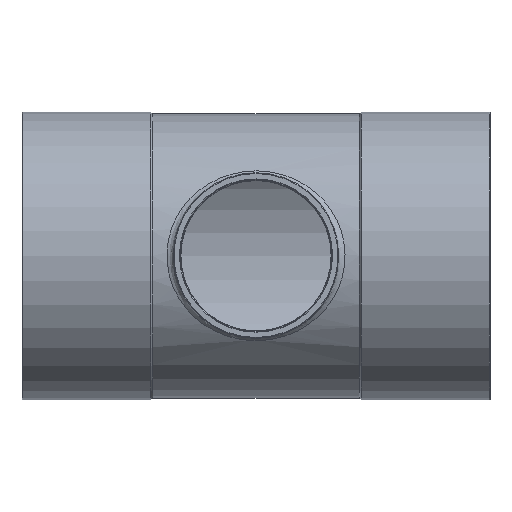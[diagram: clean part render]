
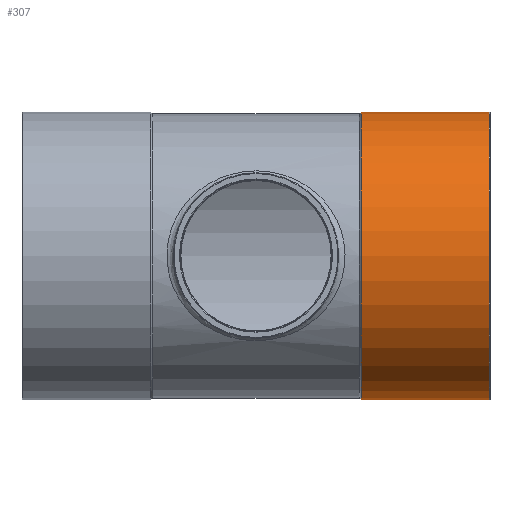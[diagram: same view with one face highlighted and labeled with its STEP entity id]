
A CAD part, top view. The second image highlights one B-rep face of the part: STEP entity #307.
In plain terms, the highlighted cylindrical face has radius 40 mm (diameter 80 mm), a partial arc.
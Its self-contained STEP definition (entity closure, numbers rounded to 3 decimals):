
#135=CARTESIAN_POINT('',(29.213,40.0,0.0));
#136=VERTEX_POINT('',#135);
#152=CARTESIAN_POINT('',(29.213,-40.0,0.));
#153=VERTEX_POINT('',#152);
#160=CARTESIAN_POINT('',(29.213,0.0,0.0));
#161=DIRECTION('',(1.0,0.0,0.0));
#162=DIRECTION('',(0.0,1.0,0.0));
#163=AXIS2_PLACEMENT_3D('',#160,#161,#162);
#164=CIRCLE('',#163,40.0);
#165=EDGE_CURVE('',#136,#153,#164,.T.);
#276=CARTESIAN_POINT('',(47.106,0.0,0.0));
#277=DIRECTION('',(1.0,0.0,0.0));
#278=DIRECTION('',(0.0,1.0,0.0));
#279=AXIS2_PLACEMENT_3D('',#276,#277,#278);
#280=CYLINDRICAL_SURFACE('',#279,40.0);
#281=CARTESIAN_POINT('',(64.8,40.0,0.));
#282=VERTEX_POINT('',#281);
#283=CARTESIAN_POINT('',(29.213,40.0,0.0));
#284=DIRECTION('',(1.0,0.0,0.0));
#285=VECTOR('',#284,35.587);
#286=LINE('',#283,#285);
#287=EDGE_CURVE('',#136,#282,#286,.T.);
#288=ORIENTED_EDGE('',*,*,#287,.F.);
#289=ORIENTED_EDGE('',*,*,#165,.T.);
#290=CARTESIAN_POINT('',(64.8,-40.0,0.));
#291=VERTEX_POINT('',#290);
#292=CARTESIAN_POINT('',(64.8,-40.0,0.));
#293=DIRECTION('',(-1.0,0.0,0.0));
#294=VECTOR('',#293,35.587);
#295=LINE('',#292,#294);
#296=EDGE_CURVE('',#291,#153,#295,.T.);
#297=ORIENTED_EDGE('',*,*,#296,.F.);
#298=CARTESIAN_POINT('',(64.8,0.0,0.0));
#299=DIRECTION('',(1.0,0.0,0.0));
#300=DIRECTION('',(0.0,-1.0,0.0));
#301=AXIS2_PLACEMENT_3D('',#298,#299,#300);
#302=CIRCLE('',#301,40.0);
#303=EDGE_CURVE('',#282,#291,#302,.T.);
#304=ORIENTED_EDGE('',*,*,#303,.F.);
#305=EDGE_LOOP('',(#288,#289,#297,#304));
#306=FACE_OUTER_BOUND('',#305,.T.);
#307=ADVANCED_FACE('',(#306),#280,.T.);
